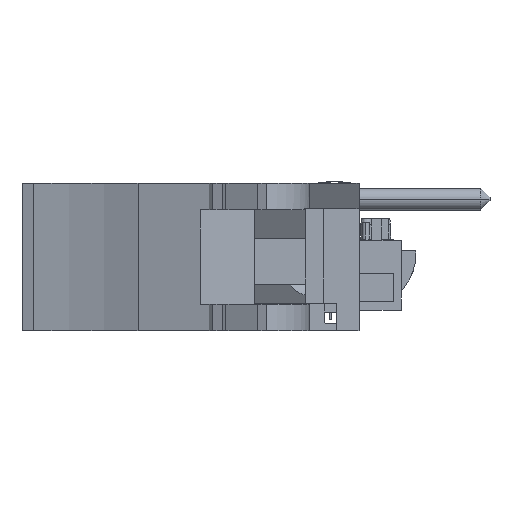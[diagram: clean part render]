
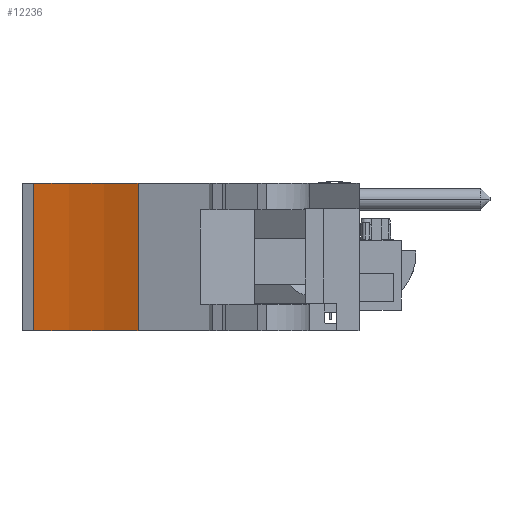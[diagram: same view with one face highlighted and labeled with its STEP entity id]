
A CAD part, front view. The second image highlights one B-rep face of the part: STEP entity #12236.
In plain terms, the highlighted cylindrical face has radius 51.46 mm (diameter 102.919 mm), a partial arc.
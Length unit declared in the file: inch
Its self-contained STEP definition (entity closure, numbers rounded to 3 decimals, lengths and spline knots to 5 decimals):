
#5235=CARTESIAN_POINT('',(-1.98133,-5.96253,-0.093));
#5236=DIRECTION('',(0.,0.,1.));
#5237=DIRECTION('',(0.435,0.9,0.));
#5238=AXIS2_PLACEMENT_3D('',#5235,#5236,#5237);
#5432=CARTESIAN_POINT('',(-1.98133,-5.96253,0.695));
#5433=DIRECTION('',(0.,0.,1.));
#5434=DIRECTION('',(0.435,0.9,0.));
#5435=AXIS2_PLACEMENT_3D('',#5432,#5433,#5434);
#5725=DIRECTION('',(0.,0.,1.));
#5726=VECTOR('',#5725,0.788);
#5727=CARTESIAN_POINT('',(-1.10003,-4.13829,-0.093));
#5728=LINE('',#5727,#5726);
#5741=DIRECTION('',(0.,0.,1.));
#5742=VECTOR('',#5741,0.788);
#5743=CARTESIAN_POINT('',(-1.658,-3.96253,-0.093));
#5744=LINE('',#5743,#5742);
#11307=CARTESIAN_POINT('',(-1.10003,-4.13829,-0.093));
#11308=CARTESIAN_POINT('',(-1.658,-3.96253,-0.093));
#11309=VERTEX_POINT('',#11307);
#11310=VERTEX_POINT('',#11308);
#11311=CARTESIAN_POINT('',(-1.10003,-4.13829,0.695));
#11312=CARTESIAN_POINT('',(-1.658,-3.96253,0.695));
#11313=VERTEX_POINT('',#11311);
#11314=VERTEX_POINT('',#11312);
#12224=CARTESIAN_POINT('',(-1.98133,-5.96253,0.695));
#12225=DIRECTION('',(0.,0.,1.));
#12226=DIRECTION('',(0.,1.,0.));
#12227=AXIS2_PLACEMENT_3D('',#12224,#12225,#12226);
#12228=CYLINDRICAL_SURFACE('',#12227,2.02597);
#12229=ORIENTED_EDGE('',*,*,#11662,.T.);
#12231=ORIENTED_EDGE('',*,*,#12230,.T.);
#12232=ORIENTED_EDGE('',*,*,#11785,.F.);
#12233=ORIENTED_EDGE('',*,*,#12209,.F.);
#12234=EDGE_LOOP('',(#12229,#12231,#12232,#12233));
#12235=FACE_OUTER_BOUND('',#12234,.F.);
#12236=ADVANCED_FACE('',(#12235),#12228,.F.);
#5239=CIRCLE('',#5238,2.02597);
#5436=CIRCLE('',#5435,2.02597);
#11662=EDGE_CURVE('',#11309,#11310,#5239,.T.);
#11785=EDGE_CURVE('',#11313,#11314,#5436,.T.);
#12209=EDGE_CURVE('',#11309,#11313,#5728,.T.);
#12230=EDGE_CURVE('',#11310,#11314,#5744,.T.);
